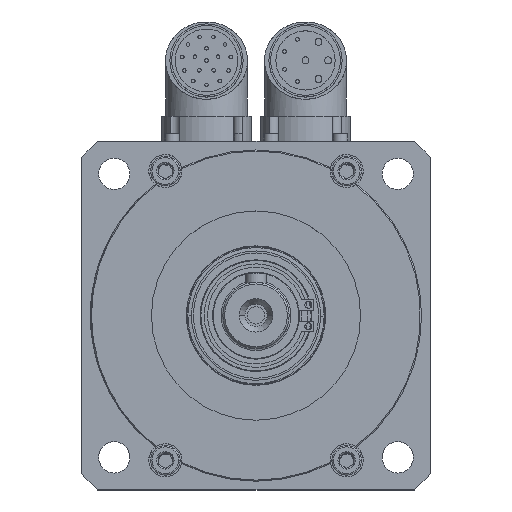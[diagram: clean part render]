
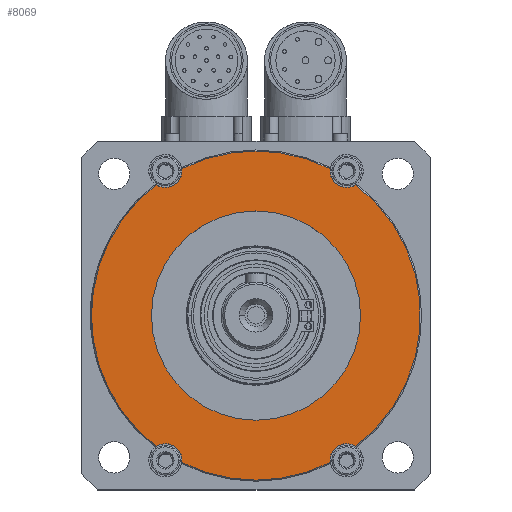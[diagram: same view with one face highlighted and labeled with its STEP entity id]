
A CAD part, top view. The second image highlights one B-rep face of the part: STEP entity #8069.
In plain terms, the highlighted planar face has unit normal (0, 0, 1).
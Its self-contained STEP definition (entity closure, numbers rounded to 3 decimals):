
#359 = CARTESIAN_POINT ( 'NONE',  ( -26., 41.5, 20. ) ) ;
#360 = DIRECTION ( 'NONE',  ( 0., 0., 1. ) ) ;
#361 = DIRECTION ( 'NONE',  ( 1., 0., 0. ) ) ;
#380 = CARTESIAN_POINT ( 'NONE',  ( 0., 0., 20. ) ) ;
#381 = DIRECTION ( 'NONE',  ( 0., 0., 1. ) ) ;
#382 = DIRECTION ( 'NONE',  ( 1., 0., 0. ) ) ;
#398 = CARTESIAN_POINT ( 'NONE',  ( -26., -41.5, 20. ) ) ;
#406 = DIRECTION ( 'NONE',  ( 0., 0., 1. ) ) ;
#407 = DIRECTION ( 'NONE',  ( 1., 0., 0. ) ) ;
#472 = CARTESIAN_POINT ( 'NONE',  ( 21.291, 42.125, 20. ) ) ;
#501 = CARTESIAN_POINT ( 'NONE',  ( -28.617, 37.536, 20. ) ) ;
#504 = CARTESIAN_POINT ( 'NONE',  ( 21.25, -41.5, 20. ) ) ;
#518 = CARTESIAN_POINT ( 'NONE',  ( 21.291, -42.125, 20. ) ) ;
#528 = CARTESIAN_POINT ( 'NONE',  ( 28.617, -37.536, 20. ) ) ;
#531 = CARTESIAN_POINT ( 'NONE',  ( 21.25, 41.5, 20. ) ) ;
#533 = CARTESIAN_POINT ( 'NONE',  ( -21.25, -41.5, 20. ) ) ;
#543 = CARTESIAN_POINT ( 'NONE',  ( 0., 0., 20. ) ) ;
#552 = CARTESIAN_POINT ( 'NONE',  ( 26., 41.5, 20. ) ) ;
#553 = DIRECTION ( 'NONE',  ( 0., 0., 1. ) ) ;
#554 = DIRECTION ( 'NONE',  ( 1., 0., 0. ) ) ;
#562 = DIRECTION ( 'NONE',  ( 0., 0., 1. ) ) ;
#563 = DIRECTION ( 'NONE',  ( 1., 0., 0. ) ) ;
#572 = CARTESIAN_POINT ( 'NONE',  ( 26., -41.5, 20. ) ) ;
#582 = DIRECTION ( 'NONE',  ( 0., 0., 1. ) ) ;
#583 = DIRECTION ( 'NONE',  ( 1., 0., 0. ) ) ;
#1504 = CARTESIAN_POINT ( 'NONE',  ( -26., -41.5, 20. ) ) ;
#1515 = DIRECTION ( 'NONE',  ( 0., 0., 1. ) ) ;
#1516 = DIRECTION ( 'NONE',  ( 1., 0., 0. ) ) ;
#1518 = CARTESIAN_POINT ( 'NONE',  ( -26., 41.5, 20. ) ) ;
#1540 = DIRECTION ( 'NONE',  ( 1., 0., 0. ) ) ;
#1542 = DIRECTION ( 'NONE',  ( 0., 0., 1. ) ) ;
#2328 = CARTESIAN_POINT ( 'NONE',  ( 0., 0., 20. ) ) ;
#2330 = DIRECTION ( 'NONE',  ( 0., 0., 1. ) ) ;
#2331 = DIRECTION ( 'NONE',  ( 1., 0., 0. ) ) ;
#2362 = CARTESIAN_POINT ( 'NONE',  ( 0., 0., 20. ) ) ;
#2363 = DIRECTION ( 'NONE',  ( 0., 0., 1. ) ) ;
#2364 = DIRECTION ( 'NONE',  ( 1., 0., 0. ) ) ;
#3805 = VERTEX_POINT ( 'NONE', #14616 ) ;
#3968 = VERTEX_POINT ( 'NONE', #12048 ) ;
#3994 = VERTEX_POINT ( 'NONE', #12069 ) ;
#4003 = VERTEX_POINT ( 'NONE', #12024 ) ;
#4018 = VERTEX_POINT ( 'NONE', #12011 ) ;
#4020 = VERTEX_POINT ( 'NONE', #12016 ) ;
#4027 = VERTEX_POINT ( 'NONE', #12102 ) ;
#4039 = VERTEX_POINT ( 'NONE', #5543 ) ;
#4106 = EDGE_CURVE ( 'NONE', #4003, #13396, #14513, .T. ) ;
#4108 = EDGE_CURVE ( 'NONE', #13298, #4039, #14517, .T. ) ;
#5036 = CIRCLE ( 'NONE', #11457, 4.75 ) ;
#5042 = CIRCLE ( 'NONE', #11468, 47.2 ) ;
#5050 = CIRCLE ( 'NONE', #11472, 4.75 ) ;
#5059 = CIRCLE ( 'NONE', #11479, 30. ) ;
#5064 = CIRCLE ( 'NONE', #11481, 4.75 ) ;
#5074 = CIRCLE ( 'NONE', #11474, 4.75 ) ;
#5446 = ORIENTED_EDGE ( 'NONE', *, *, #12688, .T. ) ;
#5447 = ORIENTED_EDGE ( 'NONE', *, *, #12971, .F. ) ;
#5457 = ORIENTED_EDGE ( 'NONE', *, *, #4106, .F. ) ;
#5477 = ORIENTED_EDGE ( 'NONE', *, *, #5978, .F. ) ;
#5479 = ORIENTED_EDGE ( 'NONE', *, *, #4108, .F. ) ;
#5480 = ORIENTED_EDGE ( 'NONE', *, *, #5975, .T. ) ;
#5481 = ORIENTED_EDGE ( 'NONE', *, *, #12956, .T. ) ;
#5482 = ORIENTED_EDGE ( 'NONE', *, *, #13421, .F. ) ;
#5543 = CARTESIAN_POINT ( 'NONE',  ( -21.25, 41.5, 20. ) ) ;
#5964 = EDGE_CURVE ( 'NONE', #13251, #4020, #7874, .T. ) ;
#5972 = EDGE_CURVE ( 'NONE', #13251, #13394, #7880, .T. ) ;
#5975 = EDGE_CURVE ( 'NONE', #4003, #13386, #7885, .T. ) ;
#5978 = EDGE_CURVE ( 'NONE', #13391, #13289, #7889, .T. ) ;
#5980 = EDGE_CURVE ( 'NONE', #13391, #3994, #7892, .T. ) ;
#6343 = AXIS2_PLACEMENT_3D ( 'NONE', #1504, #1515, #1516 ) ;
#6345 = AXIS2_PLACEMENT_3D ( 'NONE', #1518, #1542, #1540 ) ;
#6840 = AXIS2_PLACEMENT_3D ( 'NONE', #7429, #7440, #7441 ) ;
#6843 = AXIS2_PLACEMENT_3D ( 'NONE', #7484, #7486, #7487 ) ;
#6844 = AXIS2_PLACEMENT_3D ( 'NONE', #7455, #7463, #7464 ) ;
#6847 = AXIS2_PLACEMENT_3D ( 'NONE', #7465, #7472, #7473 ) ;
#6850 = AXIS2_PLACEMENT_3D ( 'NONE', #7474, #7479, #7480 ) ;
#6996 = AXIS2_PLACEMENT_3D ( 'NONE', #16731, #16734, #16735 ) ;
#7429 = CARTESIAN_POINT ( 'NONE',  ( 0., 0., 20. ) ) ;
#7440 = DIRECTION ( 'NONE',  ( 0., 0., 1. ) ) ;
#7441 = DIRECTION ( 'NONE',  ( 1., 0., 0. ) ) ;
#7455 = CARTESIAN_POINT ( 'NONE',  ( 26., 41.5, 20. ) ) ;
#7463 = DIRECTION ( 'NONE',  ( 0., 0., 1. ) ) ;
#7464 = DIRECTION ( 'NONE',  ( 1., 0., 0. ) ) ;
#7465 = CARTESIAN_POINT ( 'NONE',  ( 0., 0., 20. ) ) ;
#7472 = DIRECTION ( 'NONE',  ( 0., 0., 1. ) ) ;
#7473 = DIRECTION ( 'NONE',  ( 1., 0., 0. ) ) ;
#7474 = CARTESIAN_POINT ( 'NONE',  ( 26., -41.5, 20. ) ) ;
#7479 = DIRECTION ( 'NONE',  ( 0., 0., 1. ) ) ;
#7480 = DIRECTION ( 'NONE',  ( 1., 0., 0. ) ) ;
#7484 = CARTESIAN_POINT ( 'NONE',  ( 0., 0., 20. ) ) ;
#7486 = DIRECTION ( 'NONE',  ( 0., 0., 1. ) ) ;
#7487 = DIRECTION ( 'NONE',  ( 1., 0., 0. ) ) ;
#7874 = CIRCLE ( 'NONE', #6840, 47.2 ) ;
#7880 = CIRCLE ( 'NONE', #6844, 4.75 ) ;
#7885 = CIRCLE ( 'NONE', #6847, 47.2 ) ;
#7889 = CIRCLE ( 'NONE', #6850, 4.75 ) ;
#7892 = CIRCLE ( 'NONE', #6843, 47.2 ) ;
#8069 = ADVANCED_FACE ( 'NONE', ( #13580, #13587 ), #16732, .T. ) ;
#8698 = CIRCLE ( 'NONE', #11404, 47.2 ) ;
#8712 = CIRCLE ( 'NONE', #11406, 30. ) ;
#11404 = AXIS2_PLACEMENT_3D ( 'NONE', #2328, #2330, #2331 ) ;
#11406 = AXIS2_PLACEMENT_3D ( 'NONE', #2362, #2363, #2364 ) ;
#11457 = AXIS2_PLACEMENT_3D ( 'NONE', #359, #360, #361 ) ;
#11468 = AXIS2_PLACEMENT_3D ( 'NONE', #380, #381, #382 ) ;
#11472 = AXIS2_PLACEMENT_3D ( 'NONE', #398, #406, #407 ) ;
#11474 = AXIS2_PLACEMENT_3D ( 'NONE', #572, #582, #583 ) ;
#11479 = AXIS2_PLACEMENT_3D ( 'NONE', #543, #553, #554 ) ;
#11481 = AXIS2_PLACEMENT_3D ( 'NONE', #552, #562, #563 ) ;
#11839 = ORIENTED_EDGE ( 'NONE', *, *, #13410, .F. ) ;
#12011 = CARTESIAN_POINT ( 'NONE',  ( 30., 0., 20. ) ) ;
#12016 = CARTESIAN_POINT ( 'NONE',  ( -21.291, 42.125, 20. ) ) ;
#12024 = CARTESIAN_POINT ( 'NONE',  ( -21.291, -42.125, 20. ) ) ;
#12048 = CARTESIAN_POINT ( 'NONE',  ( -30., 0., 20. ) ) ;
#12069 = CARTESIAN_POINT ( 'NONE',  ( 28.617, 37.536, 20. ) ) ;
#12102 = CARTESIAN_POINT ( 'NONE',  ( -28.617, -37.536, 20. ) ) ;
#12688 = EDGE_CURVE ( 'NONE', #3805, #4027, #8698, .T. ) ;
#12700 = EDGE_CURVE ( 'NONE', #4018, #3968, #8712, .T. ) ;
#12944 = EDGE_CURVE ( 'NONE', #4039, #4020, #5036, .T. ) ;
#12956 = EDGE_CURVE ( 'NONE', #13298, #3805, #5042, .T. ) ;
#12971 = EDGE_CURVE ( 'NONE', #13396, #4027, #5050, .T. ) ;
#13251 = VERTEX_POINT ( 'NONE', #472 ) ;
#13289 = VERTEX_POINT ( 'NONE', #504 ) ;
#13298 = VERTEX_POINT ( 'NONE', #501 ) ;
#13386 = VERTEX_POINT ( 'NONE', #518 ) ;
#13391 = VERTEX_POINT ( 'NONE', #528 ) ;
#13394 = VERTEX_POINT ( 'NONE', #531 ) ;
#13396 = VERTEX_POINT ( 'NONE', #533 ) ;
#13410 = EDGE_CURVE ( 'NONE', #3968, #4018, #5059, .T. ) ;
#13414 = EDGE_CURVE ( 'NONE', #13394, #3994, #5064, .T. ) ;
#13421 = EDGE_CURVE ( 'NONE', #13289, #13386, #5074, .T. ) ;
#13580 = FACE_OUTER_BOUND ( 'NONE', #16383, .T. ) ;
#13587 = FACE_BOUND ( 'NONE', #16390, .T. ) ;
#14513 = CIRCLE ( 'NONE', #6343, 4.75 ) ;
#14517 = CIRCLE ( 'NONE', #6345, 4.75 ) ;
#14616 = CARTESIAN_POINT ( 'NONE',  ( -47.2, 0., 20. ) ) ;
#14814 = ORIENTED_EDGE ( 'NONE', *, *, #5980, .T. ) ;
#14815 = ORIENTED_EDGE ( 'NONE', *, *, #13414, .F. ) ;
#14816 = ORIENTED_EDGE ( 'NONE', *, *, #12700, .F. ) ;
#14817 = ORIENTED_EDGE ( 'NONE', *, *, #12944, .F. ) ;
#14818 = ORIENTED_EDGE ( 'NONE', *, *, #5964, .T. ) ;
#14819 = ORIENTED_EDGE ( 'NONE', *, *, #5972, .F. ) ;
#16383 = EDGE_LOOP ( 'NONE', ( #5479, #5481, #5446, #5447, #5457, #5480, #5482, #5477, #14814, #14815, #14819, #14818, #14817 ) ) ;
#16390 = EDGE_LOOP ( 'NONE', ( #14816, #11839 ) ) ;
#16731 = CARTESIAN_POINT ( 'NONE',  ( -50., 50., 20. ) ) ;
#16732 = PLANE ( 'NONE',  #6996 ) ;
#16734 = DIRECTION ( 'NONE',  ( 0., 0., 1. ) ) ;
#16735 = DIRECTION ( 'NONE',  ( 1., 0., 0. ) ) ;
